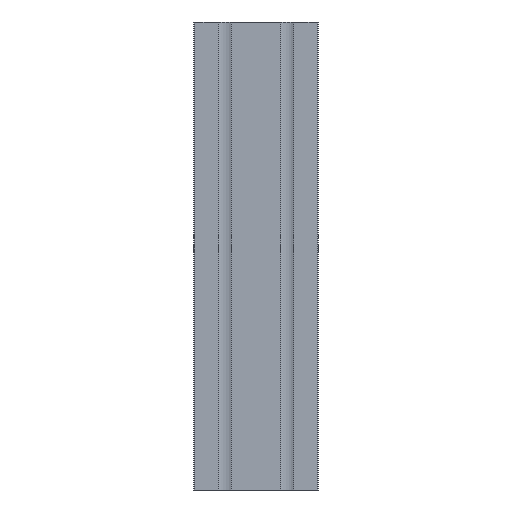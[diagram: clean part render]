
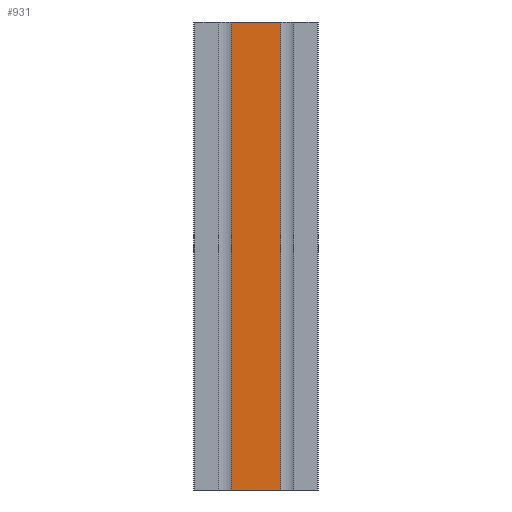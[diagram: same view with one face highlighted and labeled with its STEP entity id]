
A CAD part, front view. The second image highlights one B-rep face of the part: STEP entity #931.
In plain terms, the highlighted planar face has unit normal (0, -1, 0).
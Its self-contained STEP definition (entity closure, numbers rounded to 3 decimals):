
#103 = PLANE ( 'NONE',  #871 ) ;
#107 = VECTOR ( 'NONE', #1227, 1000. ) ;
#142 = DIRECTION ( 'NONE',  ( 1., 0., 0. ) ) ;
#206 = LINE ( 'NONE', #2776, #364 ) ;
#349 = CARTESIAN_POINT ( 'NONE',  ( 15.8, -20., -150. ) ) ;
#364 = VECTOR ( 'NONE', #2481, 1000. ) ;
#432 = CARTESIAN_POINT ( 'NONE',  ( -15.8, -20., -150. ) ) ;
#498 = EDGE_CURVE ( 'NONE', #1652, #1085, #1148, .T. ) ;
#511 = LINE ( 'NONE', #432, #1863 ) ;
#576 = VECTOR ( 'NONE', #1310, 1000. ) ;
#762 = EDGE_CURVE ( 'NONE', #1652, #2002, #1899, .T. ) ;
#871 = AXIS2_PLACEMENT_3D ( 'NONE', #2653, #2376, #2082 ) ;
#931 = ADVANCED_FACE ( 'NONE', ( #1087 ), #103, .F. ) ;
#1085 = VERTEX_POINT ( 'NONE', #2330 ) ;
#1087 = FACE_OUTER_BOUND ( 'NONE', #1440, .T. ) ;
#1148 = LINE ( 'NONE', #1211, #107 ) ;
#1182 = EDGE_CURVE ( 'NONE', #2002, #1545, #511, .T. ) ;
#1211 = CARTESIAN_POINT ( 'NONE',  ( -15.8, -20., 150. ) ) ;
#1227 = DIRECTION ( 'NONE',  ( 1., 0., 0. ) ) ;
#1310 = DIRECTION ( 'NONE',  ( 0., 0., -1. ) ) ;
#1440 = EDGE_LOOP ( 'NONE', ( #1832, #1690, #2569, #2362 ) ) ;
#1545 = VERTEX_POINT ( 'NONE', #349 ) ;
#1601 = CARTESIAN_POINT ( 'NONE',  ( -15.8, -20., 150. ) ) ;
#1652 = VERTEX_POINT ( 'NONE', #1679 ) ;
#1663 = CARTESIAN_POINT ( 'NONE',  ( -15.8, -20., -150. ) ) ;
#1679 = CARTESIAN_POINT ( 'NONE',  ( -15.8, -20., 150. ) ) ;
#1690 = ORIENTED_EDGE ( 'NONE', *, *, #2669, .F. ) ;
#1832 = ORIENTED_EDGE ( 'NONE', *, *, #1182, .T. ) ;
#1863 = VECTOR ( 'NONE', #142, 1000. ) ;
#1899 = LINE ( 'NONE', #1601, #576 ) ;
#2002 = VERTEX_POINT ( 'NONE', #1663 ) ;
#2082 = DIRECTION ( 'NONE',  ( 0., 0., 1. ) ) ;
#2330 = CARTESIAN_POINT ( 'NONE',  ( 15.8, -20., 150. ) ) ;
#2362 = ORIENTED_EDGE ( 'NONE', *, *, #762, .T. ) ;
#2376 = DIRECTION ( 'NONE',  ( 0., 1., 0. ) ) ;
#2481 = DIRECTION ( 'NONE',  ( 0., 0., -1. ) ) ;
#2569 = ORIENTED_EDGE ( 'NONE', *, *, #498, .F. ) ;
#2653 = CARTESIAN_POINT ( 'NONE',  ( -15.8, -20., 150. ) ) ;
#2669 = EDGE_CURVE ( 'NONE', #1085, #1545, #206, .T. ) ;
#2776 = CARTESIAN_POINT ( 'NONE',  ( 15.8, -20., 150. ) ) ;
